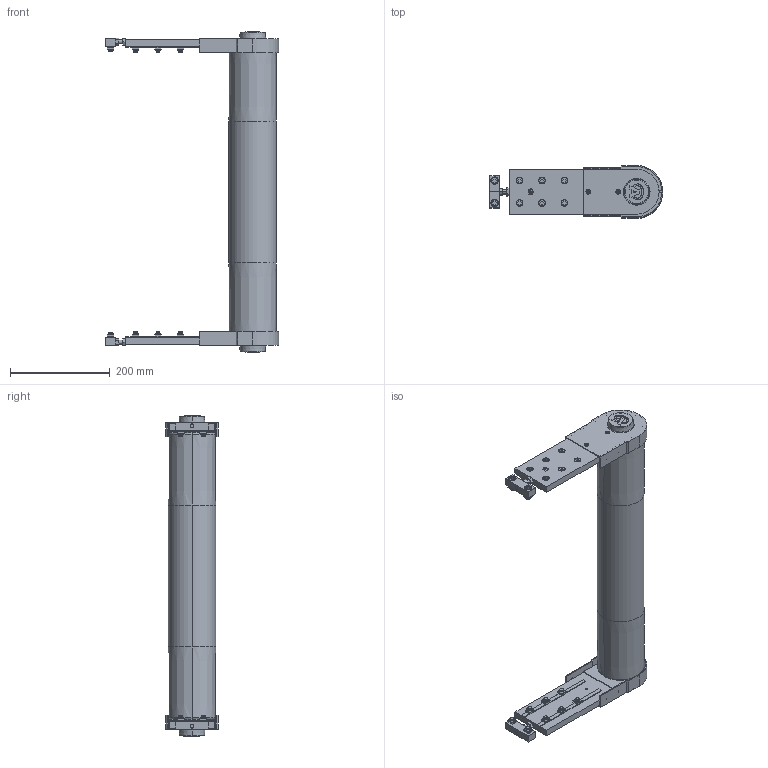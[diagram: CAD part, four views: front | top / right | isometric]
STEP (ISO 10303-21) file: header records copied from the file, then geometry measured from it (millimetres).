
FILE_DESCRIPTION (( 'STEP AP214' ), '1' );
FILE_NAME ('084.095.KI.550.STEP', '2020-09-09T06:52:29', ( 'Localadmin' ), ( 'Microsoft' ), 'SwSTEP 2.0', 'SolidWorks 2018', '' );
FILE_SCHEMA (( 'AUTOMOTIVE_DESIGN' ));
Length unit declared in the file: millimetre
Products named in the file (11): Circlip DIN 471 - 30 x 1.5_Circlip DIN 471 - 30 x 1.5; 084.803.003; 084.802.019_084.802.019; 084.810.003; 084.808.002_084.808.002; 084.812.003; 084.816.150_084.816.107<A macchina>; 084.302.000 DADI ALUSIC 13x13_084.302.004; 084.301.000 VITI ALUSIC_084.301.003; 084.803.005-1; 084.095.KI.550
Assembly tree (47 placements, depth 2):
  084.095.KI.550
    084.803.005-1  x2
    084.301.000 VITI ALUSIC_084.301.003  x16
    084.302.000 DADI ALUSIC 13x13_084.302.004  x16
    084.816.150_084.816.107<A macchina>
    084.812.003  x2
    084.808.002_084.808.002  x2
    084.810.003  x2
    084.802.019_084.802.019  x2
    084.803.003  x2
    Circlip DIN 471 - 30 x 1.5_Circlip DIN 471 - 30 x 1.5  x2
Bounding box: 348.5 x 105 x 643 mm (x, y, z)
Volume: 2087397.8 mm3; surface area: 930340.6 mm2
Topology: 53 solids, 55 shells, 1602 faces, 4134 edges, 2708 vertices
Faces by surface type: plane 967, cylinder 371, torus 116, cone 92, bspline 48, sphere 8
Entity records: 20454 total; most frequent: CARTESIAN_POINT 3923, DIRECTION 3331, ORIENTED_EDGE 3270, EDGE_CURVE 1635, AXIS2_PLACEMENT_3D 1129, VERTEX_POINT 1077, VECTOR 1073, LINE 1073
